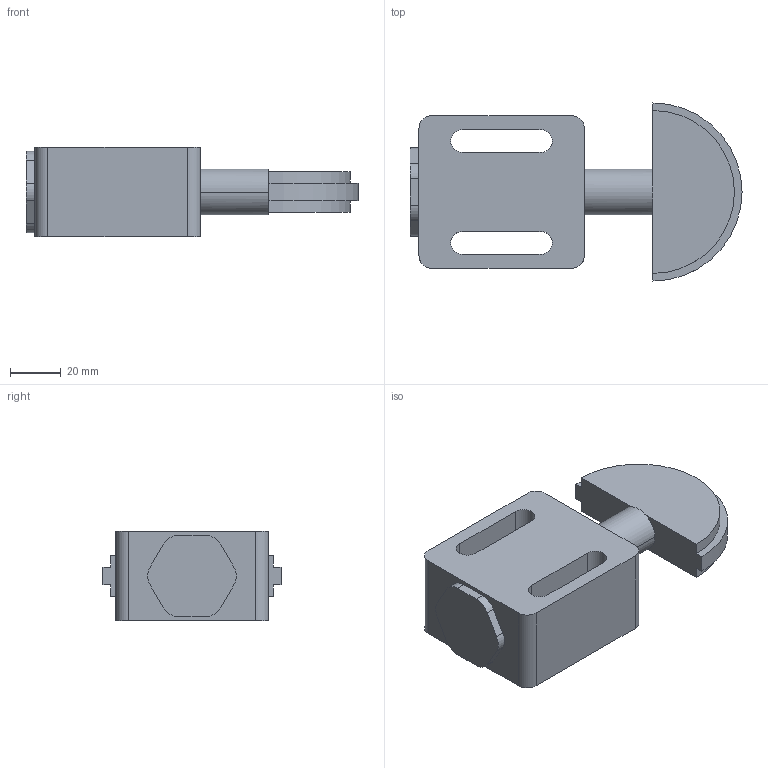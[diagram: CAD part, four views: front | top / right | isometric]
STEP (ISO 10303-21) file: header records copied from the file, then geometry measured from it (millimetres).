
FILE_DESCRIPTION (( 'STEP AP203' ), '1' );
FILE_NAME ('tc-tbv40m.STEP', '2021-10-26T06:26:59', ( '' ), ( '' ), 'SwSTEP 2.0', 'SolidWorks 2020', '' );
FILE_SCHEMA (( 'CONFIG_CONTROL_DESIGN' ));
Length unit declared in the file: millimetre
Products named in the file (3): tc-tbv40m; tc-tbv40m_02; tc-tbv40m_01
Assembly tree (2 placements, depth 2):
  tc-tbv40m
    tc-tbv40m_01
    tc-tbv40m_02
Bounding box: 130.5 x 70 x 35 mm (x, y, z)
Volume: 142760.2 mm3; surface area: 33793.6 mm2
Topology: 2 solids, 2 shells, 51 faces, 131 edges, 86 vertices
Faces by surface type: plane 27, cylinder 24
Entity records: 1878 total; most frequent: DIRECTION 295, CARTESIAN_POINT 273, ORIENTED_EDGE 262, EDGE_CURVE 131, AXIS2_PLACEMENT_3D 108, VERTEX_POINT 86, LINE 79, VECTOR 79
